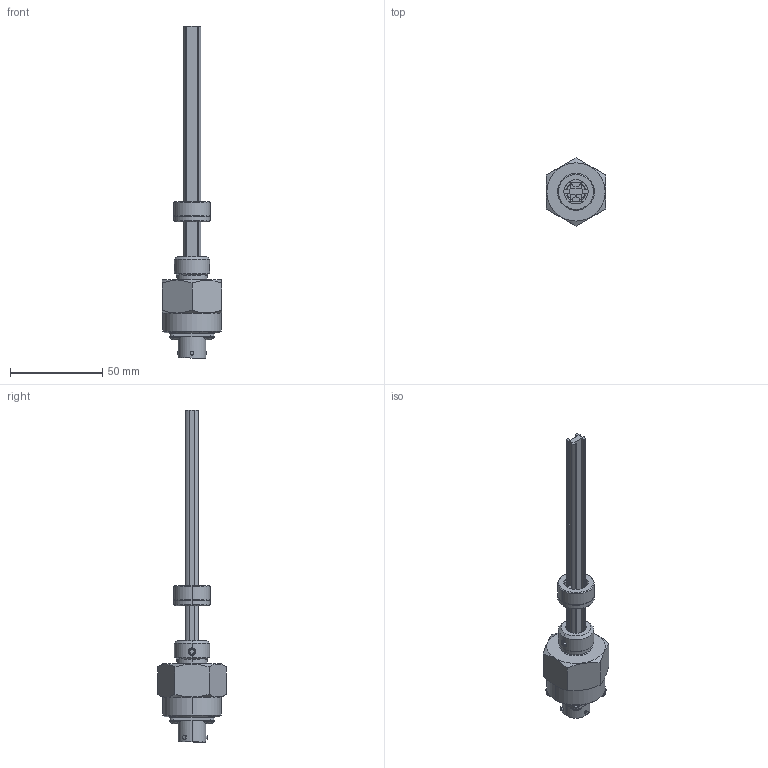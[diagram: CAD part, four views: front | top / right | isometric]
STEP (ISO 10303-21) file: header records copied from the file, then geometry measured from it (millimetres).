
FILE_DESCRIPTION (( 'STEP AP203' ), '1' );
FILE_NAME ('IC-C-100-E-I.STEP', '2018-07-10T15:59:19', ( '' ), ( '' ), 'SwSTEP 2.0', 'SolidWorks 2018', '' );
FILE_SCHEMA (( 'CONFIG_CONTROL_DESIGN' ));
Length unit declared in the file: millimetre
Products named in the file (12): IC-C-100-E-I; CUR081X; SUP085X; PUN025X; CON302X; TTAP078X; GUA030X; PKIT075X; CUR080X; MIM837X; FLA082X; MIM308X_MIM308
Assembly tree (16 placements, depth 3):
  IC-C-100-E-I
    SUP085X
    MIM308X_MIM308  x2
    TTAP078X
    FLA082X
    PKIT075X
      CUR080X
      CUR081X
      PUN025X  x2
    CON302X
    GUA030X
    MIM837X  x4
Bounding box: 32 x 36.95 x 179.6 mm (x, y, z)
Volume: 32906.5 mm3; surface area: 20290.2 mm2
Topology: 15 solids, 15 shells, 976 faces, 2428 edges, 1520 vertices
Faces by surface type: plane 324, cone 286, cylinder 272, bspline 60, torus 26, sphere 8
Entity records: 24826 total; most frequent: CARTESIAN_POINT 7548, DIRECTION 3308, ORIENTED_EDGE 3288, EDGE_CURVE 1644, AXIS2_PLACEMENT_3D 1200, VERTEX_POINT 1052, VECTOR 908, LINE 908
